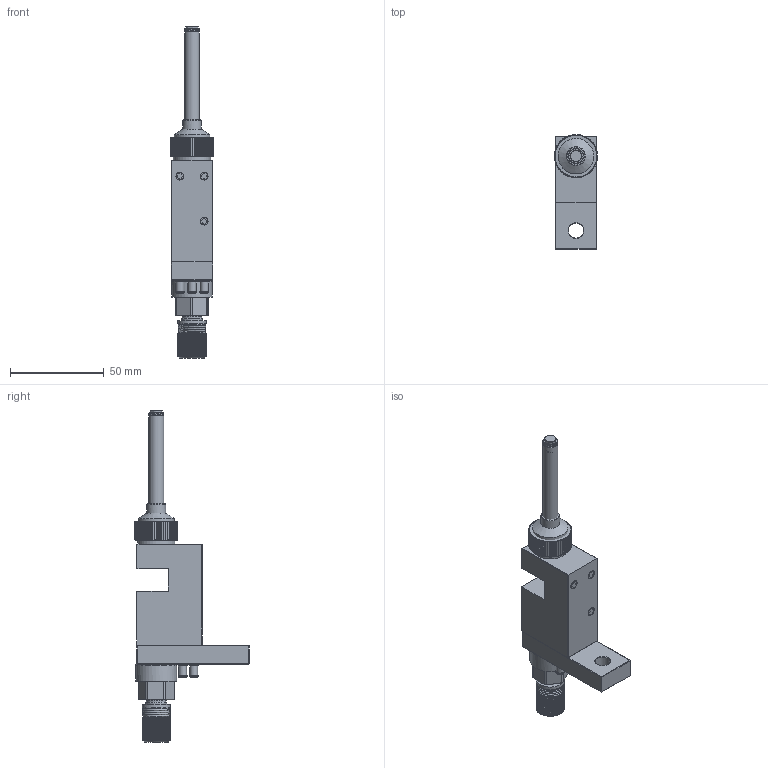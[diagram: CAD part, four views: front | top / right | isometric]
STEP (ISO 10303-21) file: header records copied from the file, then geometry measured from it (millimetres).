
FILE_DESCRIPTION (( 'STEP AP214' ), '1' );
FILE_NAME ('DAS-50N-50.STEP', '2024-10-11T10:08:00', ( '' ), ( '' ), 'SwSTEP 2.0', 'SolidWorks 2024', '' );
FILE_SCHEMA (( 'AUTOMOTIVE_DESIGN' ));
Length unit declared in the file: millimetre
Products named in the file (1): DAS-50N-50
Bounding box: 23 x 61.11 x 177.1 mm (x, y, z)
Volume: 77828.8 mm3; surface area: 25677.8 mm2
Topology: 18 solids, 18 shells, 746 faces, 1988 edges, 1307 vertices
Faces by surface type: cylinder 312, cone 174, plane 160, torus 63, bspline 37
Full cylindrical faces by diameter (mm): 3.3 x3, 4 x1, 4.3 x3, 4.8 x6, 5 x7, 5.8 x3, 7.85 x6, 8 x3, 8.8 x1, 10 x2, 10.5 x1, 11.1 x1, 13 x1, 15 x1, 18.9 x1, 19 x2, 19.8 x1, 20 x1, 20.8 x1, 21.8 x1
Entity records: 27792 total; most frequent: CARTESIAN_POINT 10142, ORIENTED_EDGE 3682, DIRECTION 3556, EDGE_CURVE 1841, AXIS2_PLACEMENT_3D 1501, VERTEX_POINT 1259, EDGE_LOOP 882, FACE_OUTER_BOUND 796
